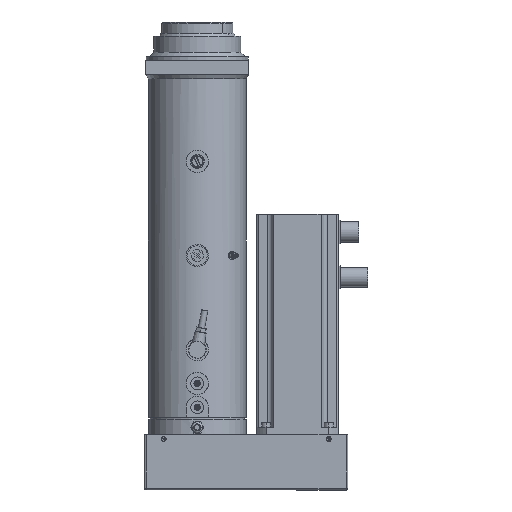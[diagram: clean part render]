
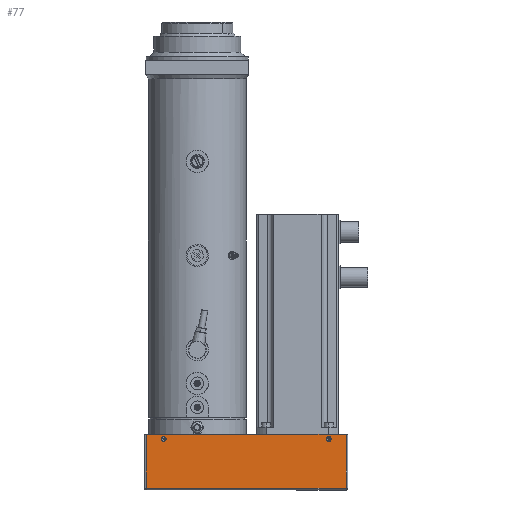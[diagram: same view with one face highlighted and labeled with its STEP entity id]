
A CAD part, front view. The second image highlights one B-rep face of the part: STEP entity #77.
In plain terms, the highlighted planar face has unit normal (0, -1, 0).
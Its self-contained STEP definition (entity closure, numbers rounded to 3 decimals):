
#77 = ADVANCED_FACE ( 'NONE', ( #4841, #21143, #31071 ), #14613, .F. ) ;
#110 = CARTESIAN_POINT ( 'NONE',  ( -38.897, -62.585, -453.5 ) ) ;
#1714 = VERTEX_POINT ( 'NONE', #34105 ) ;
#1775 = AXIS2_PLACEMENT_3D ( 'NONE', #21170, #23937, #2339 ) ;
#2339 = DIRECTION ( 'NONE',  ( -1., 0., 0. ) ) ;
#3262 = DIRECTION ( 'NONE',  ( 0., -1., 0. ) ) ;
#3542 = CARTESIAN_POINT ( 'NONE',  ( -40.747, -62.585, -453.5 ) ) ;
#3964 = CARTESIAN_POINT ( 'NONE',  ( -60.597, -62.584, -511. ) ) ;
#4546 = DIRECTION ( 'NONE',  ( 1., 0., 0. ) ) ;
#4552 = EDGE_LOOP ( 'NONE', ( #24044, #11994 ) ) ;
#4841 = FACE_BOUND ( 'NONE', #4552, .T. ) ;
#4997 = EDGE_CURVE ( 'NONE', #22181, #1714, #12189, .T. ) ;
#5555 = EDGE_CURVE ( 'NONE', #35607, #19836, #6986, .T. ) ;
#5979 = CIRCLE ( 'NONE', #33540, 1.85 ) ;
#6015 = DIRECTION ( 'NONE',  ( -1., 0., 0. ) ) ;
#6971 = LINE ( 'NONE', #12912, #29336 ) ;
#6986 = LINE ( 'NONE', #22058, #19900 ) ;
#7972 = AXIS2_PLACEMENT_3D ( 'NONE', #19706, #3262, #6015 ) ;
#9127 = ORIENTED_EDGE ( 'NONE', *, *, #4997, .F. ) ;
#9247 = CARTESIAN_POINT ( 'NONE',  ( -37.047, -62.585, -453.5 ) ) ;
#9292 = DIRECTION ( 'NONE',  ( 0., -1., 0. ) ) ;
#9418 = DIRECTION ( 'NONE',  ( 0., 1., 0. ) ) ;
#9828 = VERTEX_POINT ( 'NONE', #3542 ) ;
#10765 = EDGE_CURVE ( 'NONE', #19836, #16147, #6971, .T. ) ;
#11933 = EDGE_LOOP ( 'NONE', ( #19361, #20275, #26718, #19956 ) ) ;
#11994 = ORIENTED_EDGE ( 'NONE', *, *, #20190, .F. ) ;
#12189 = CIRCLE ( 'NONE', #7972, 1.85 ) ;
#12221 = CARTESIAN_POINT ( 'NONE',  ( -58.597, -62.584, -448.5 ) ) ;
#12912 = CARTESIAN_POINT ( 'NONE',  ( -58.597, -62.584, -511. ) ) ;
#12990 = CARTESIAN_POINT ( 'NONE',  ( 166.603, -62.59, -509. ) ) ;
#13376 = EDGE_CURVE ( 'NONE', #9828, #32672, #20595, .T. ) ;
#14165 = EDGE_CURVE ( 'NONE', #1714, #22181, #5979, .T. ) ;
#14613 = PLANE ( 'NONE',  #26271 ) ;
#15133 = CIRCLE ( 'NONE', #31658, 1.85 ) ;
#15530 = CARTESIAN_POINT ( 'NONE',  ( -58.597, -62.584, -509. ) ) ;
#16147 = VERTEX_POINT ( 'NONE', #15530 ) ;
#16155 = DIRECTION ( 'NONE',  ( 0., 0., -1. ) ) ;
#16800 = VERTEX_POINT ( 'NONE', #12990 ) ;
#17711 = CARTESIAN_POINT ( 'NONE',  ( 166.603, -62.59, -448.5 ) ) ;
#18827 = DIRECTION ( 'NONE',  ( 0., -1., 0. ) ) ;
#19170 = DIRECTION ( 'NONE',  ( -1., 0., 0. ) ) ;
#19361 = ORIENTED_EDGE ( 'NONE', *, *, #5555, .T. ) ;
#19706 = CARTESIAN_POINT ( 'NONE',  ( 147.103, -62.59, -453.5 ) ) ;
#19836 = VERTEX_POINT ( 'NONE', #12221 ) ;
#19900 = VECTOR ( 'NONE', #27574, 1000. ) ;
#19956 = ORIENTED_EDGE ( 'NONE', *, *, #28209, .T. ) ;
#20190 = EDGE_CURVE ( 'NONE', #32672, #9828, #15133, .T. ) ;
#20275 = ORIENTED_EDGE ( 'NONE', *, *, #10765, .T. ) ;
#20595 = CIRCLE ( 'NONE', #1775, 1.85 ) ;
#20851 = CARTESIAN_POINT ( 'NONE',  ( -60.597, -62.584, -509. ) ) ;
#21143 = FACE_BOUND ( 'NONE', #33571, .T. ) ;
#21144 = DIRECTION ( 'NONE',  ( 0., 0., 1. ) ) ;
#21170 = CARTESIAN_POINT ( 'NONE',  ( -38.897, -62.585, -453.5 ) ) ;
#21640 = EDGE_CURVE ( 'NONE', #16147, #16800, #34853, .T. ) ;
#21756 = ORIENTED_EDGE ( 'NONE', *, *, #14165, .F. ) ;
#22058 = CARTESIAN_POINT ( 'NONE',  ( -60.597, -62.584, -448.5 ) ) ;
#22181 = VERTEX_POINT ( 'NONE', #26099 ) ;
#22925 = DIRECTION ( 'NONE',  ( 1., 0., 0. ) ) ;
#23937 = DIRECTION ( 'NONE',  ( 0., -1., 0. ) ) ;
#24044 = ORIENTED_EDGE ( 'NONE', *, *, #13376, .F. ) ;
#26099 = CARTESIAN_POINT ( 'NONE',  ( 148.953, -62.59, -453.5 ) ) ;
#26271 = AXIS2_PLACEMENT_3D ( 'NONE', #3964, #9418, #22925 ) ;
#26718 = ORIENTED_EDGE ( 'NONE', *, *, #21640, .T. ) ;
#27574 = DIRECTION ( 'NONE',  ( -1., 0., 0. ) ) ;
#28209 = EDGE_CURVE ( 'NONE', #16800, #35607, #34846, .T. ) ;
#28530 = DIRECTION ( 'NONE',  ( -1., 0., 0. ) ) ;
#28783 = VECTOR ( 'NONE', #21144, 1000. ) ;
#29327 = CARTESIAN_POINT ( 'NONE',  ( 166.603, -62.59, -511. ) ) ;
#29336 = VECTOR ( 'NONE', #16155, 1000. ) ;
#30992 = VECTOR ( 'NONE', #4546, 1000. ) ;
#31071 = FACE_OUTER_BOUND ( 'NONE', #11933, .T. ) ;
#31455 = CARTESIAN_POINT ( 'NONE',  ( 147.103, -62.59, -453.5 ) ) ;
#31658 = AXIS2_PLACEMENT_3D ( 'NONE', #110, #18827, #19170 ) ;
#32672 = VERTEX_POINT ( 'NONE', #9247 ) ;
#33540 = AXIS2_PLACEMENT_3D ( 'NONE', #31455, #9292, #28530 ) ;
#33571 = EDGE_LOOP ( 'NONE', ( #21756, #9127 ) ) ;
#34105 = CARTESIAN_POINT ( 'NONE',  ( 145.253, -62.59, -453.5 ) ) ;
#34846 = LINE ( 'NONE', #29327, #28783 ) ;
#34853 = LINE ( 'NONE', #20851, #30992 ) ;
#35607 = VERTEX_POINT ( 'NONE', #17711 ) ;
